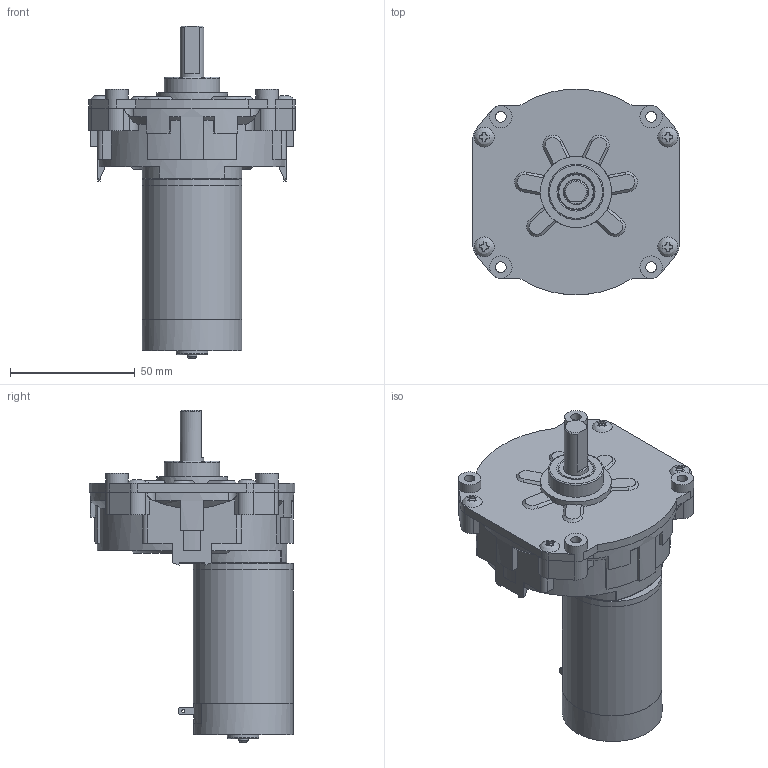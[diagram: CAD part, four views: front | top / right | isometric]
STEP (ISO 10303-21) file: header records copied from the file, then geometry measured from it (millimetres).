
FILE_DESCRIPTION(/* description */ (''),/* implementation_level */ '2;1');
FILE_NAME(/* name */ 'C:\Users\byjeong\Desktop\3D도면\SP45BT.stp',/* time_stamp */ '2015-03-31T15:45:51+09:00',/* author */ ('byjeong'),/* organization */ (''),/* preprocessor_version */ 'ST-DEVELOPER v15.6',/* originating_system */ 'Autodesk Inventor 2015',/* authorisation */ '');
FILE_SCHEMA (('AUTOMOTIVE_DESIGN { 1 0 10303 214 3 1 1 }'));
Length unit declared in the file: millimetre
Products named in the file (11): SP BOX ASSY; DC SP BOX; RM4TYPE_BRUSH_BRAKET_TERMINAL; RM4TYPE_REAR_HOUSING; REAR_HOUSING__ASS'Y_TERMINAL; RM4TYPE_FRONT_HOUSING_; RM4TYPE_PIPE_HOUSING_pi40XL53.5; RM45TYPE_SHAFT; AS 1427 Z - 미터 M3.5 x 5; RM45ㅁBT; SP BOX ASSY.ipt
Bounding box: 82.6 x 82.32 x 133.07 mm (x, y, z)
Volume: 99490.3 mm3; surface area: 70927.4 mm2
Topology: 10 solids, 11 shells, 735 faces, 1919 edges, 1253 vertices
Faces by surface type: plane 380, cylinder 192, cone 101, torus 32, bspline 28, sphere 2
Full cylindrical faces by diameter (mm): 1.2 x2, 2.7 x4, 2.8 x4, 3 x14, 3.05 x2, 3.132 x2, 3.4 x2, 3.5 x4, 3.6 x4, 3.7 x2, 3.969 x1, 4 x5, 4.3 x8, 4.5 x4, 5 x2, 6 x1, 6.1 x2, 6.5 x1, 6.65 x1, 9 x4, 9.5 x2, 9.54 x1, 10.5 x1, 12.5 x1, 12.7 x3, 14 x1, 14.3 x2, 14.5 x2, 16.6 x1, 17.6 x1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
Entity records: 22503 total; most frequent: CARTESIAN_POINT 5912, DIRECTION 3361, ORIENTED_EDGE 3296, EDGE_CURVE 1648, AXIS2_PLACEMENT_3D 1326, VERTEX_POINT 1154, EDGE_LOOP 942, LINE 709
